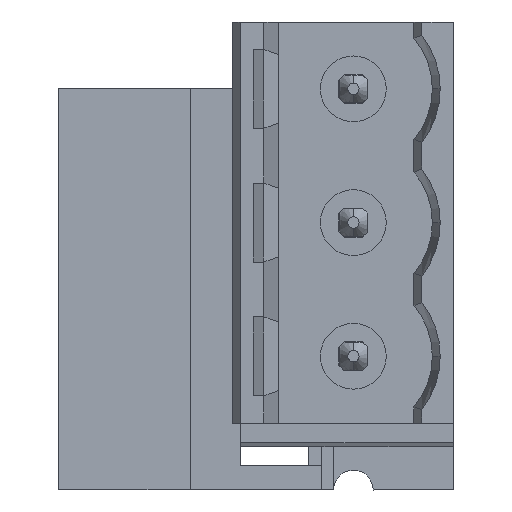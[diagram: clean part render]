
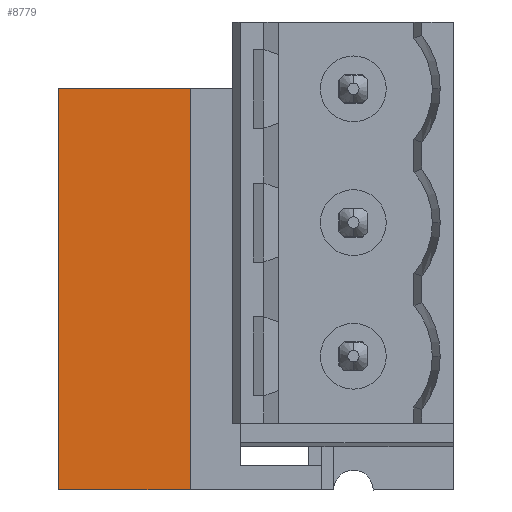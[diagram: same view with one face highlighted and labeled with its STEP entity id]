
A CAD part, left-side view. The second image highlights one B-rep face of the part: STEP entity #8779.
In plain terms, the highlighted planar face has unit normal (-1, 0, 0).
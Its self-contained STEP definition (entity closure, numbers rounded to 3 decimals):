
#29 = VERTEX_POINT ( 'NONE', #1883 ) ;
#104 = EDGE_CURVE ( 'NONE', #29, #10230, #2003, .T. ) ;
#1883 = CARTESIAN_POINT ( 'NONE',  ( -5.907, -0.197, -15.24 ) ) ;
#1999 = DIRECTION ( 'NONE',  ( 0., 1., 0. ) ) ;
#2000 = VECTOR ( 'NONE', #1999, 1000. ) ;
#2002 = CARTESIAN_POINT ( 'NONE',  ( -5.907, 2.303, -15.24 ) ) ;
#2003 = LINE ( 'NONE', #2002, #2000 ) ;
#8757 = EDGE_LOOP ( 'NONE', ( #8761, #8807, #8809, #8811 ) ) ;
#8759 = VERTEX_POINT ( 'NONE', #13780 ) ;
#8761 = ORIENTED_EDGE ( 'NONE', *, *, #8765, .T. ) ;
#8765 = EDGE_CURVE ( 'NONE', #8777, #8759, #13774, .T. ) ;
#8775 = EDGE_CURVE ( 'NONE', #8777, #29, #13760, .T. ) ;
#8777 = VERTEX_POINT ( 'NONE', #13821 ) ;
#8779 = ADVANCED_FACE ( 'NONE', ( #13820 ), #13819, .F. ) ;
#8807 = ORIENTED_EDGE ( 'NONE', *, *, #8808, .T. ) ;
#8808 = EDGE_CURVE ( 'NONE', #8759, #10230, #13838, .T. ) ;
#8809 = ORIENTED_EDGE ( 'NONE', *, *, #104, .F. ) ;
#8811 = ORIENTED_EDGE ( 'NONE', *, *, #8775, .F. ) ;
#10230 = VERTEX_POINT ( 'NONE', #16151 ) ;
#13760 = LINE ( 'NONE', #13824, #13823 ) ;
#13771 = DIRECTION ( 'NONE',  ( 0., 1., 0. ) ) ;
#13772 = VECTOR ( 'NONE', #13771, 1000. ) ;
#13773 = CARTESIAN_POINT ( 'NONE',  ( -5.907, -0.422, 0. ) ) ;
#13774 = LINE ( 'NONE', #13773, #13772 ) ;
#13780 = CARTESIAN_POINT ( 'NONE',  ( -5.907, 4.803, 0. ) ) ;
#13814 = DIRECTION ( 'NONE',  ( 0., 1., 0. ) ) ;
#13815 = DIRECTION ( 'NONE',  ( 1., 0., 0. ) ) ;
#13816 = CARTESIAN_POINT ( 'NONE',  ( -5.907, -0.197, -15.24 ) ) ;
#13817 = AXIS2_PLACEMENT_3D ( 'NONE', #13816, #13815, #13814 ) ;
#13819 = PLANE ( 'NONE',  #13817 ) ;
#13820 = FACE_OUTER_BOUND ( 'NONE', #8757, .T. ) ;
#13821 = CARTESIAN_POINT ( 'NONE',  ( -5.907, -0.197, 0. ) ) ;
#13822 = DIRECTION ( 'NONE',  ( 0., 0., -1. ) ) ;
#13823 = VECTOR ( 'NONE', #13822, 1000. ) ;
#13824 = CARTESIAN_POINT ( 'NONE',  ( -5.907, -0.197, -7.62 ) ) ;
#13835 = DIRECTION ( 'NONE',  ( 0., 0., -1. ) ) ;
#13836 = VECTOR ( 'NONE', #13835, 1000. ) ;
#13837 = CARTESIAN_POINT ( 'NONE',  ( -5.907, 4.803, -7.62 ) ) ;
#13838 = LINE ( 'NONE', #13837, #13836 ) ;
#16151 = CARTESIAN_POINT ( 'NONE',  ( -5.907, 4.803, -15.24 ) ) ;
